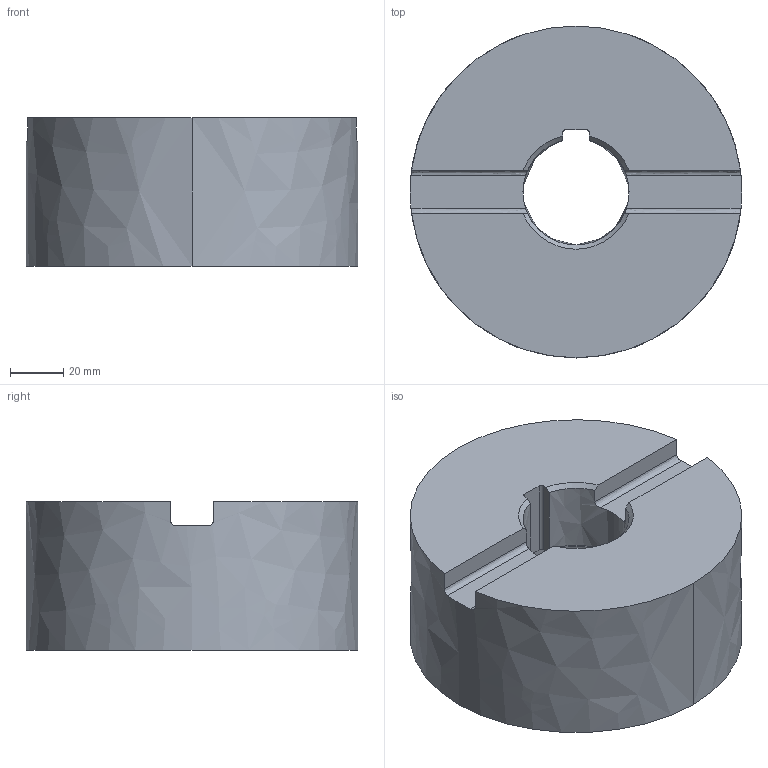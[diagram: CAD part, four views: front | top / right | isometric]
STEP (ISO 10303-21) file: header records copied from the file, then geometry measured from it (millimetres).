
FILE_DESCRIPTION((''),'2;1');
FILE_NAME('DIN4003_82_HEURO','2016-12-15T',('automc'),(''),'PRO/ENGINEER BY PARAMETRIC TECHNOLOGY CORPORATION, 2015280','PRO/ENGINEER BY PARAMETRIC TECHNOLOGY CORPORATION, 2015280','');
FILE_SCHEMA(('AUTOMOTIVE_DESIGN { 1 0 10303 214 1 1 1 1 }'));
Length unit declared in the file: millimetre
Products named in the file (1): DIN4003_82_HEURO
Bounding box: 125 x 125 x 56 mm (x, y, z)
Volume: 536262.9 mm3; surface area: 51752.4 mm2
Topology: 1 solids, 1 shells, 30 faces, 84 edges, 57 vertices
Faces by surface type: bspline 30
Entity records: 1827 total; most frequent: CARTESIAN_POINT 780, ORIENTED_EDGE 164, DIRECTION 123, EDGE_CURVE 82, VERTEX_POINT 54, VECTOR 43, LINE 43, AXIS2_PLACEMENT_3D 40
